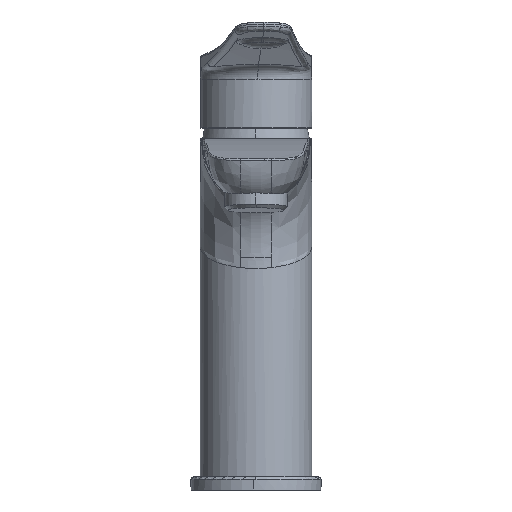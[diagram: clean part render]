
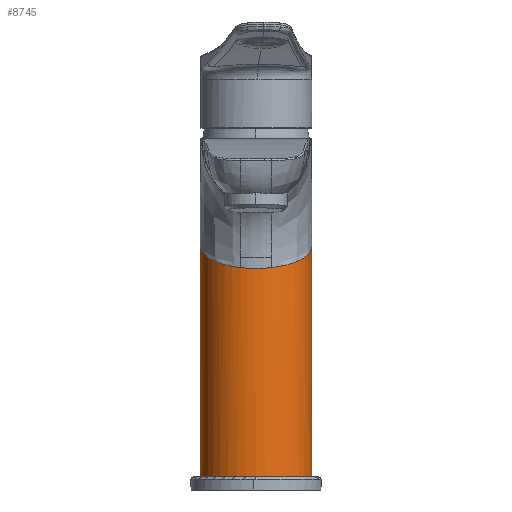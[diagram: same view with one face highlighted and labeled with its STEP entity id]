
A CAD part, left-side view. The second image highlights one B-rep face of the part: STEP entity #8745.
In plain terms, the highlighted cylindrical face has radius 21.487 mm (diameter 42.973 mm), a partial arc.
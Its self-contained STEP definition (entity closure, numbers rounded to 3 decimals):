
#1112=CARTESIAN_POINT('',(-20.639,5.974,58.023));
#1613=DIRECTION('',(0.,0.,1.));
#1614=VECTOR('',#1613,88.522);
#1615=CARTESIAN_POINT('',(-0.001,21.486,
-22.453));
#1616=LINE('',#1615,#1614);
#1626=CARTESIAN_POINT('',(-0.001,21.486,
-22.453));
#1632=CARTESIAN_POINT('',(-20.631,-5.998,
58.026));
#1633=CARTESIAN_POINT('',(-20.905,-5.055,
57.919));
#1634=CARTESIAN_POINT('',(-21.335,-3.082,
57.755));
#1635=CARTESIAN_POINT('',(-21.561,-0.013,
57.673));
#1636=CARTESIAN_POINT('',(-21.339,3.058,57.753));
#1637=CARTESIAN_POINT('',(-20.911,5.031,57.916));
#1638=CARTESIAN_POINT('',(-20.639,5.974,58.023));
#1640=CARTESIAN_POINT('',(0.002,-21.487,
66.07));
#1641=CARTESIAN_POINT('',(-1.353,-21.487,
65.535));
#1642=CARTESIAN_POINT('',(-4.077,-21.229,
64.482));
#1643=CARTESIAN_POINT('',(-8.022,-20.074,
62.941));
#1644=CARTESIAN_POINT('',(-11.713,-18.173,
61.503));
#1645=CARTESIAN_POINT('',(-15.009,-15.567,
60.218));
#1646=CARTESIAN_POINT('',(-17.774,-12.323,
59.14));
#1647=CARTESIAN_POINT('',(-19.598,-9.037,
58.429));
#1648=CARTESIAN_POINT('',(-20.385,-6.844,
58.122));
#1649=CARTESIAN_POINT('',(-20.631,-5.998,
58.026));
#1651=CARTESIAN_POINT('',(-20.639,5.974,58.023));
#1652=CARTESIAN_POINT('',(-20.391,6.83,58.119));
#1653=CARTESIAN_POINT('',(-19.603,9.033,58.426));
#1654=CARTESIAN_POINT('',(-17.773,12.326,59.14));
#1655=CARTESIAN_POINT('',(-15.009,15.57,60.217));
#1656=CARTESIAN_POINT('',(-11.713,18.177,61.503));
#1657=CARTESIAN_POINT('',(-8.022,20.077,62.94));
#1658=CARTESIAN_POINT('',(-4.076,21.234,64.481));
#1659=CARTESIAN_POINT('',(-1.355,21.487,65.534));
#1660=CARTESIAN_POINT('',(0.,21.487,66.069));
#1666=DIRECTION('',(0.,0.,-1.));
#1667=VECTOR('',#1666,88.522);
#1668=CARTESIAN_POINT('',(0.002,-21.487,
66.07));
#1669=LINE('',#1668,#1667);
#1741=CARTESIAN_POINT('',(0.002,-21.487,
66.07));
#1995=CARTESIAN_POINT('',(0.002,-0.001,
-22.453));
#1996=DIRECTION('',(0.,0.,-1.));
#1997=DIRECTION('',(0.,-1.,0.));
#1998=AXIS2_PLACEMENT_3D('',#1995,#1996,#1997);
#2009=CARTESIAN_POINT('',(0.004,-21.487,
-22.453));
#4376=VERTEX_POINT('',#2009);
#4381=VERTEX_POINT('',#1626);
#4392=VERTEX_POINT('',#1112);
#4394=VERTEX_POINT('',#1660);
#4406=VERTEX_POINT('',#1741);
#4407=VERTEX_POINT('',#1649);
#8729=CARTESIAN_POINT('',(0.002,-0.001,
46.189));
#8730=DIRECTION('',(0.,0.,1.));
#8731=DIRECTION('',(0.,1.,0.));
#8732=AXIS2_PLACEMENT_3D('',#8729,#8730,#8731);
#8733=CYLINDRICAL_SURFACE('',#8732,21.487);
#8735=ORIENTED_EDGE('',*,*,#8734,.F.);
#8736=ORIENTED_EDGE('',*,*,#7569,.F.);
#8738=ORIENTED_EDGE('',*,*,#8737,.T.);
#8740=ORIENTED_EDGE('',*,*,#8739,.T.);
#8741=ORIENTED_EDGE('',*,*,#8720,.T.);
#8742=ORIENTED_EDGE('',*,*,#7269,.F.);
#8743=EDGE_LOOP('',(#8735,#8736,#8738,#8740,#8741,#8742));
#8744=FACE_OUTER_BOUND('',#8743,.F.);
#8745=ADVANCED_FACE('',(#8744),#8733,.T.);
#1639=B_SPLINE_CURVE_WITH_KNOTS('',3,(#1632,#1633,#1634,#1635,#1636,#1637,
#1638),.UNSPECIFIED.,.F.,.F.,(4,1,1,1,4),(0.,0.244,
0.5,0.756,1.),.UNSPECIFIED.);
#1650=B_SPLINE_CURVE_WITH_KNOTS('',3,(#1640,#1641,#1642,#1643,#1644,#1645,#1646,
#1647,#1648,#1649),.UNSPECIFIED.,.F.,.F.,(4,1,1,1,1,1,1,4),(0.,
0.151,0.303,0.454,0.605,
0.757,0.908,1.),.UNSPECIFIED.);
#1661=B_SPLINE_CURVE_WITH_KNOTS('',3,(#1651,#1652,#1653,#1654,#1655,#1656,#1657,
#1658,#1659,#1660),.UNSPECIFIED.,.F.,.F.,(4,1,1,1,1,1,1,4),(0.,
0.093,0.244,0.395,0.546,
0.698,0.849,1.),.UNSPECIFIED.);
#1999=CIRCLE('',#1998,21.487);
#7269=EDGE_CURVE('',#4392,#4394,#1661,.T.);
#7569=EDGE_CURVE('',#4406,#4407,#1650,.T.);
#8720=EDGE_CURVE('',#4381,#4394,#1616,.T.);
#8734=EDGE_CURVE('',#4407,#4392,#1639,.T.);
#8737=EDGE_CURVE('',#4406,#4376,#1669,.T.);
#8739=EDGE_CURVE('',#4376,#4381,#1999,.T.);
